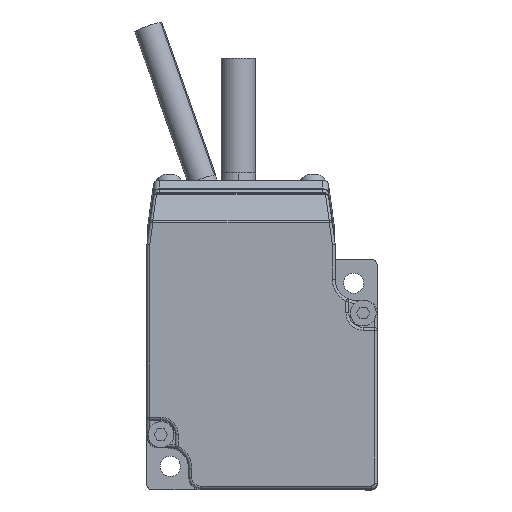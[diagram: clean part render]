
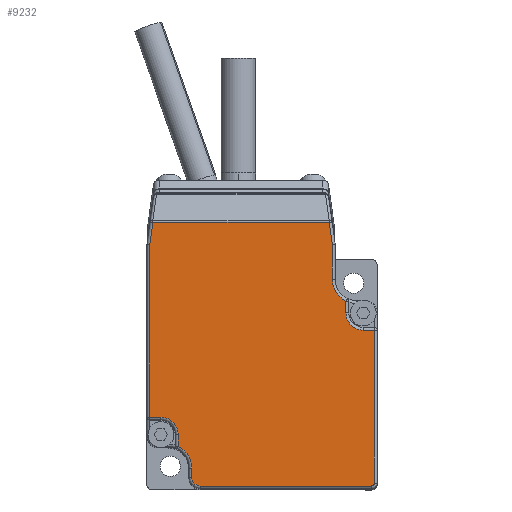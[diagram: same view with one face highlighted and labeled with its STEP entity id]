
A CAD part, top view. The second image highlights one B-rep face of the part: STEP entity #9232.
In plain terms, the highlighted planar face has unit normal (0, 0, 1).
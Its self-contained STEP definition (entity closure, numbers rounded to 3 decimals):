
#536 = EDGE_CURVE ( 'NONE', #15444, #26087, #25974, .T. ) ;
#705 = VECTOR ( 'NONE', #8338, 1000. ) ;
#749 = VERTEX_POINT ( 'NONE', #8546 ) ;
#780 = CARTESIAN_POINT ( 'NONE',  ( 14.572, -19., 92.9 ) ) ;
#822 = LINE ( 'NONE', #12402, #22561 ) ;
#884 = CIRCLE ( 'NONE', #9554, 4.2 ) ;
#1361 = LINE ( 'NONE', #19097, #705 ) ;
#1442 = DIRECTION ( 'NONE',  ( 1., 0., 0. ) ) ;
#1783 = CARTESIAN_POINT ( 'NONE',  ( -10.7, -18., 92.9 ) ) ;
#1854 = LINE ( 'NONE', #19426, #23920 ) ;
#2290 = CARTESIAN_POINT ( 'NONE',  ( 12.2, 22.465, 92.9 ) ) ;
#2355 = AXIS2_PLACEMENT_3D ( 'NONE', #11296, #21881, #4955 ) ;
#2477 = DIRECTION ( 'NONE',  ( 0., 1., 0. ) ) ;
#3150 = CARTESIAN_POINT ( 'NONE',  ( -17.572, -7.558, 92.9 ) ) ;
#3182 = LINE ( 'NONE', #21825, #8870 ) ;
#3346 = CARTESIAN_POINT ( 'NONE',  ( 19.5, -19., 92.9 ) ) ;
#3373 = DIRECTION ( 'NONE',  ( 1., 0., 0. ) ) ;
#3475 = LINE ( 'NONE', #25522, #17841 ) ;
#3781 = DIRECTION ( 'NONE',  ( 1., 0., 0. ) ) ;
#3917 = EDGE_CURVE ( 'NONE', #13240, #25248, #14666, .T. ) ;
#4594 = VERTEX_POINT ( 'NONE', #5409 ) ;
#4635 = CARTESIAN_POINT ( 'NONE',  ( 12.2, 16.4, 92.9 ) ) ;
#4761 = LINE ( 'NONE', #26280, #27471 ) ;
#4955 = DIRECTION ( 'NONE',  ( 1., 0., 0. ) ) ;
#5409 = CARTESIAN_POINT ( 'NONE',  ( 17.572, 7.558, 92.9 ) ) ;
#5503 = ORIENTED_EDGE ( 'NONE', *, *, #13145, .T. ) ;
#5547 = EDGE_CURVE ( 'NONE', #12458, #23426, #1854, .T. ) ;
#5573 = LINE ( 'NONE', #6797, #15964 ) ;
#5608 = EDGE_CURVE ( 'NONE', #749, #22091, #884, .T. ) ;
#5903 = DIRECTION ( 'NONE',  ( 0., 0., -1. ) ) ;
#6102 = ORIENTED_EDGE ( 'NONE', *, *, #25115, .T. ) ;
#6214 = CARTESIAN_POINT ( 'NONE',  ( -19.438, 26.293, 92.9 ) ) ;
#6446 = CARTESIAN_POINT ( 'NONE',  ( -14.572, -10.558, 92.9 ) ) ;
#6716 = CIRCLE ( 'NONE', #2355, 3. ) ;
#6797 = CARTESIAN_POINT ( 'NONE',  ( 11.643, 26.43, 92.9 ) ) ;
#7253 = EDGE_CURVE ( 'NONE', #10991, #15444, #3475, .T. ) ;
#7424 = EDGE_CURVE ( 'NONE', #12034, #4594, #19853, .T. ) ;
#8097 = CARTESIAN_POINT ( 'NONE',  ( -19.5, -7.558, 92.9 ) ) ;
#8338 = DIRECTION ( 'NONE',  ( 0., -1., 0. ) ) ;
#8354 = DIRECTION ( 'NONE',  ( -1., 0., 0. ) ) ;
#8424 = ORIENTED_EDGE ( 'NONE', *, *, #9590, .T. ) ;
#8546 = CARTESIAN_POINT ( 'NONE',  ( -14.572, -12.619, 92.9 ) ) ;
#8870 = VECTOR ( 'NONE', #27597, 1000. ) ;
#9037 = ORIENTED_EDGE ( 'NONE', *, *, #27222, .T. ) ;
#9232 = ADVANCED_FACE ( 'NONE', ( #11700 ), #14689, .T. ) ;
#9262 = ORIENTED_EDGE ( 'NONE', *, *, #17876, .T. ) ;
#9355 = VECTOR ( 'NONE', #23632, 1000. ) ;
#9450 = DIRECTION ( 'NONE',  ( 0., 1., 0. ) ) ;
#9478 = ORIENTED_EDGE ( 'NONE', *, *, #7424, .T. ) ;
#9554 = AXIS2_PLACEMENT_3D ( 'NONE', #15199, #26209, #17610 ) ;
#9590 = EDGE_CURVE ( 'NONE', #20709, #18296, #25394, .T. ) ;
#9921 = CARTESIAN_POINT ( 'NONE',  ( 19., -19., 92.9 ) ) ;
#10257 = AXIS2_PLACEMENT_3D ( 'NONE', #1783, #25415, #21219 ) ;
#10296 = ORIENTED_EDGE ( 'NONE', *, *, #16343, .T. ) ;
#10335 = ORIENTED_EDGE ( 'NONE', *, *, #7253, .T. ) ;
#10906 = CARTESIAN_POINT ( 'NONE',  ( -10.7, -19.5, 92.9 ) ) ;
#10991 = VERTEX_POINT ( 'NONE', #13667 ) ;
#11296 = CARTESIAN_POINT ( 'NONE',  ( 17.572, 10.558, 92.9 ) ) ;
#11405 = VERTEX_POINT ( 'NONE', #15143 ) ;
#11700 = FACE_OUTER_BOUND ( 'NONE', #19143, .T. ) ;
#11792 = DIRECTION ( 'NONE',  ( 0., 0., -1. ) ) ;
#11949 = ORIENTED_EDGE ( 'NONE', *, *, #5547, .T. ) ;
#12034 = VERTEX_POINT ( 'NONE', #25929 ) ;
#12402 = CARTESIAN_POINT ( 'NONE',  ( -12.2, -18., 92.9 ) ) ;
#12458 = VERTEX_POINT ( 'NONE', #10906 ) ;
#12726 = DIRECTION ( 'NONE',  ( 1., 0., 0. ) ) ;
#12949 = DIRECTION ( 'NONE',  ( -0.139, 0.99, 0. ) ) ;
#13145 = EDGE_CURVE ( 'NONE', #15695, #22002, #4761, .T. ) ;
#13240 = VERTEX_POINT ( 'NONE', #15847 ) ;
#13260 = CARTESIAN_POINT ( 'NONE',  ( -18.962, 26.293, 92.9 ) ) ;
#13526 = CARTESIAN_POINT ( 'NONE',  ( -12.2, -16.4, 92.9 ) ) ;
#13667 = CARTESIAN_POINT ( 'NONE',  ( -19.5, 22.465, 92.9 ) ) ;
#13693 = ORIENTED_EDGE ( 'NONE', *, *, #27539, .T. ) ;
#13968 = DIRECTION ( 'NONE',  ( 1., 0., 0. ) ) ;
#14060 = EDGE_CURVE ( 'NONE', #21823, #12034, #27409, .T. ) ;
#14666 = LINE ( 'NONE', #6214, #20669 ) ;
#14689 = PLANE ( 'NONE',  #16281 ) ;
#14729 = AXIS2_PLACEMENT_3D ( 'NONE', #9921, #24881, #3781 ) ;
#14965 = VECTOR ( 'NONE', #13968, 1000. ) ;
#15037 = CARTESIAN_POINT ( 'NONE',  ( 19.5, 8.058, 92.9 ) ) ;
#15143 = CARTESIAN_POINT ( 'NONE',  ( -12.2, -18., 92.9 ) ) ;
#15199 = CARTESIAN_POINT ( 'NONE',  ( -16.4, -16.4, 92.9 ) ) ;
#15444 = VERTEX_POINT ( 'NONE', #8097 ) ;
#15695 = VERTEX_POINT ( 'NONE', #4635 ) ;
#15847 = CARTESIAN_POINT ( 'NONE',  ( 11.662, 26.293, 92.9 ) ) ;
#15964 = VECTOR ( 'NONE', #12949, 1000. ) ;
#16126 = CARTESIAN_POINT ( 'NONE',  ( 14.572, 12.619, 92.9 ) ) ;
#16281 = AXIS2_PLACEMENT_3D ( 'NONE', #23197, #21237, #12726 ) ;
#16343 = EDGE_CURVE ( 'NONE', #4594, #20709, #6716, .T. ) ;
#16981 = ORIENTED_EDGE ( 'NONE', *, *, #24505, .T. ) ;
#17139 = CIRCLE ( 'NONE', #27012, 3. ) ;
#17221 = EDGE_CURVE ( 'NONE', #25248, #10991, #3182, .T. ) ;
#17579 = CIRCLE ( 'NONE', #27665, 4.2 ) ;
#17610 = DIRECTION ( 'NONE',  ( 1., 0., 0. ) ) ;
#17841 = VECTOR ( 'NONE', #25694, 1000. ) ;
#17876 = EDGE_CURVE ( 'NONE', #22091, #11405, #822, .T. ) ;
#17927 = CARTESIAN_POINT ( 'NONE',  ( 17.572, 7.558, 92.9 ) ) ;
#18129 = ORIENTED_EDGE ( 'NONE', *, *, #24663, .T. ) ;
#18296 = VERTEX_POINT ( 'NONE', #16126 ) ;
#19097 = CARTESIAN_POINT ( 'NONE',  ( -14.572, -19., 92.9 ) ) ;
#19143 = EDGE_LOOP ( 'NONE', ( #10296, #8424, #13693, #5503, #9037, #22270, #21010, #10335, #22026, #25387, #18129, #27021, #9262, #6102, #11949, #16981, #23682, #9478 ) ) ;
#19426 = CARTESIAN_POINT ( 'NONE',  ( 19., -19.5, 92.9 ) ) ;
#19853 = LINE ( 'NONE', #17927, #27174 ) ;
#20294 = CARTESIAN_POINT ( 'NONE',  ( -17.572, -10.558, 92.9 ) ) ;
#20669 = VECTOR ( 'NONE', #8354, 1000. ) ;
#20709 = VERTEX_POINT ( 'NONE', #27011 ) ;
#20955 = CARTESIAN_POINT ( 'NONE',  ( 16.4, 16.4, 92.9 ) ) ;
#21010 = ORIENTED_EDGE ( 'NONE', *, *, #17221, .T. ) ;
#21022 = CARTESIAN_POINT ( 'NONE',  ( 19., -19.5, 92.9 ) ) ;
#21219 = DIRECTION ( 'NONE',  ( 1., 0., 0. ) ) ;
#21237 = DIRECTION ( 'NONE',  ( 0., 0., 1. ) ) ;
#21823 = VERTEX_POINT ( 'NONE', #3346 ) ;
#21825 = CARTESIAN_POINT ( 'NONE',  ( -19.505, 22.43, 92.9 ) ) ;
#21881 = DIRECTION ( 'NONE',  ( 0., 0., -1. ) ) ;
#22002 = VERTEX_POINT ( 'NONE', #2290 ) ;
#22026 = ORIENTED_EDGE ( 'NONE', *, *, #536, .T. ) ;
#22031 = CIRCLE ( 'NONE', #10257, 1.5 ) ;
#22091 = VERTEX_POINT ( 'NONE', #13526 ) ;
#22270 = ORIENTED_EDGE ( 'NONE', *, *, #3917, .T. ) ;
#22561 = VECTOR ( 'NONE', #27318, 1000. ) ;
#23197 = CARTESIAN_POINT ( 'NONE',  ( -19., -19., 92.9 ) ) ;
#23329 = DIRECTION ( 'NONE',  ( 1., 0., 0. ) ) ;
#23385 = EDGE_CURVE ( 'NONE', #26087, #25139, #17139, .T. ) ;
#23426 = VERTEX_POINT ( 'NONE', #21022 ) ;
#23632 = DIRECTION ( 'NONE',  ( 0., 1., 0. ) ) ;
#23682 = ORIENTED_EDGE ( 'NONE', *, *, #14060, .T. ) ;
#23920 = VECTOR ( 'NONE', #23329, 1000. ) ;
#23934 = CARTESIAN_POINT ( 'NONE',  ( -17.572, -7.558, 92.9 ) ) ;
#24109 = CIRCLE ( 'NONE', #14729, 0.5 ) ;
#24505 = EDGE_CURVE ( 'NONE', #23426, #21823, #24109, .T. ) ;
#24555 = DIRECTION ( 'NONE',  ( -1., 0., 0. ) ) ;
#24663 = EDGE_CURVE ( 'NONE', #25139, #749, #1361, .T. ) ;
#24881 = DIRECTION ( 'NONE',  ( 0., 0., 1. ) ) ;
#25115 = EDGE_CURVE ( 'NONE', #11405, #12458, #22031, .T. ) ;
#25139 = VERTEX_POINT ( 'NONE', #6446 ) ;
#25248 = VERTEX_POINT ( 'NONE', #13260 ) ;
#25387 = ORIENTED_EDGE ( 'NONE', *, *, #23385, .T. ) ;
#25394 = LINE ( 'NONE', #780, #26364 ) ;
#25415 = DIRECTION ( 'NONE',  ( 0., 0., 1. ) ) ;
#25522 = CARTESIAN_POINT ( 'NONE',  ( -19.5, -8.058, 92.9 ) ) ;
#25694 = DIRECTION ( 'NONE',  ( 0., -1., 0. ) ) ;
#25929 = CARTESIAN_POINT ( 'NONE',  ( 19.5, 7.558, 92.9 ) ) ;
#25974 = LINE ( 'NONE', #3150, #14965 ) ;
#26087 = VERTEX_POINT ( 'NONE', #23934 ) ;
#26209 = DIRECTION ( 'NONE',  ( 0., 0., -1. ) ) ;
#26280 = CARTESIAN_POINT ( 'NONE',  ( 12.2, 22.5, 92.9 ) ) ;
#26364 = VECTOR ( 'NONE', #9450, 1000. ) ;
#27011 = CARTESIAN_POINT ( 'NONE',  ( 14.572, 10.558, 92.9 ) ) ;
#27012 = AXIS2_PLACEMENT_3D ( 'NONE', #20294, #11792, #3373 ) ;
#27021 = ORIENTED_EDGE ( 'NONE', *, *, #5608, .T. ) ;
#27174 = VECTOR ( 'NONE', #24555, 1000. ) ;
#27222 = EDGE_CURVE ( 'NONE', #22002, #13240, #5573, .T. ) ;
#27318 = DIRECTION ( 'NONE',  ( 0., -1., 0. ) ) ;
#27409 = LINE ( 'NONE', #15037, #9355 ) ;
#27471 = VECTOR ( 'NONE', #2477, 1000. ) ;
#27539 = EDGE_CURVE ( 'NONE', #18296, #15695, #17579, .T. ) ;
#27597 = DIRECTION ( 'NONE',  ( -0.139, -0.99, 0. ) ) ;
#27665 = AXIS2_PLACEMENT_3D ( 'NONE', #20955, #5903, #1442 ) ;
